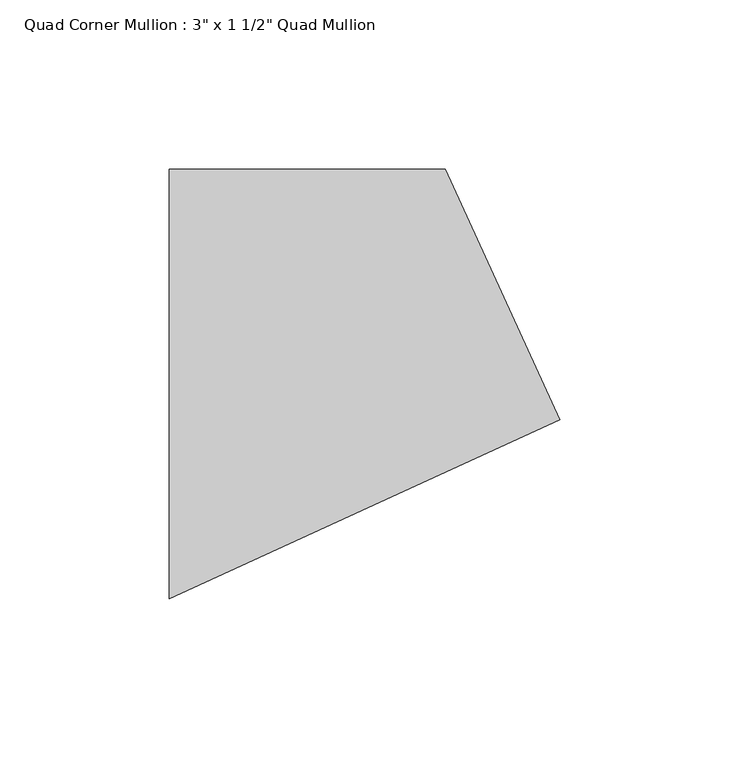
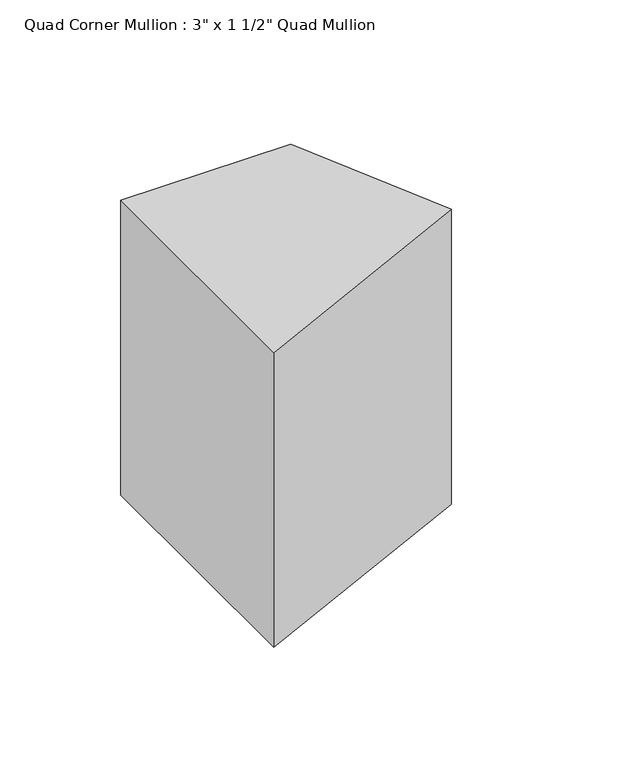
"""IFC4 building model written with IfcOpenShell, lengths in millimetres: member geometry."""

from ifc_helpers import new_model, si_unit, frame, origin, place, context, project, spatial, polyline, outline, extrude, source, transform, mapped, element, save


def member_e083785e(model_context):
    return source(origin(), model_context, "Body", "SweptSolid", [
        extrude(outline(polyline([(74.7078921, -10.6493518), (-40.7728811, -63.5), (-40.7728811, 63.5), (40.7728811, 63.5), (74.7078921, -10.6493518)])), frame((0.0, 0.0, -149.1919949), z_axis=(0.0, 0.0, 1.0), x_axis=(1.0, 0.0, 0.0)), (0.0, 0.0, 1.0), 149.1919949),
    ])


if __name__ == "__main__":
    model = new_model("IFC4")
    model_context = context("Model", 3, world=origin())
    ifc_project = project(units=[si_unit("LENGTHUNIT", "METRE", prefix="MILLI")], contexts=[model_context])
    site = spatial("IfcSite", under=ifc_project)
    building = spatial("IfcBuilding", under=site)
    placement = place(None, origin())
    member_shape = member_e083785e(model_context)
    element("IfcMember", 1, ObjectType="Quad Corner Mullion : 3\" x 1 1/2\" Quad Mullion", at=placement, inside=building, context=model_context, shape_type="MappedRepresentation", body=[
        mapped(member_shape, transform((0.0, 0.0, 0.0), x_axis=(1.0, 0.0, 0.0), y_axis=(0.0, 1.0, 0.0), z_axis=(0.0, 0.0, 1.0))),
    ])
    save(model, "model.ifc")
